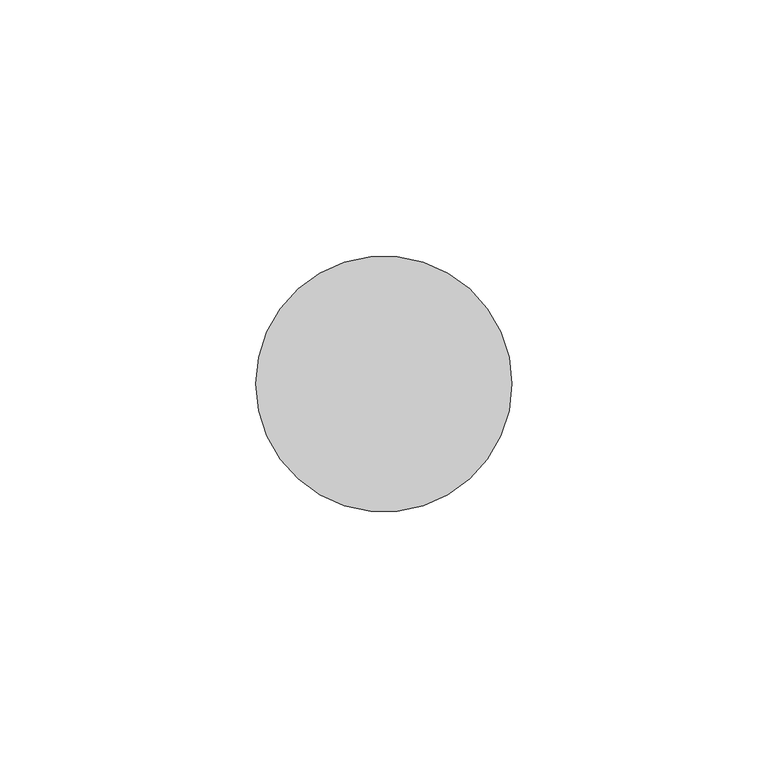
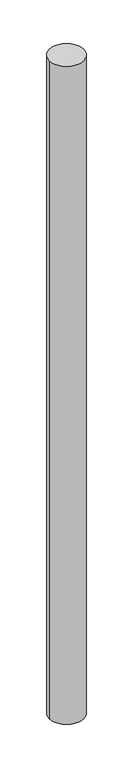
"""IFC4 building model written with IfcOpenShell, lengths in millimetres: member geometry, 圓形豎框 : 25mm 半徑."""

from ifc_helpers import new_model, si_unit, point, frame, origin, origin_2d, place, context, project, spatial, circle_curve, trimmed, segment, composite_curve, outline, extrude, source, transform, mapped, element, save


def member_c475f96c(model_context):
    return source(origin(), model_context, "Body", "SweptSolid", [
        extrude(outline(composite_curve([segment(trimmed(circle_curve(origin_2d(), 25.0), [point((25.0, 0.0))], [point((-25.0, 0.0))], False, "CARTESIAN"), True, "CONTINUOUS"), segment(trimmed(circle_curve(origin_2d(), 25.0), [point((-25.0, 0.0))], [point((25.0, 0.0))], False, "CARTESIAN"), True, "CONTINUOUS")], self_intersect=False)), frame((0.0, 0.0, -1016.472618), z_axis=(0.0, 0.0, 1.0), x_axis=(1.0, 0.0, 0.0)), (0.0, 0.0, 1.0), 1016.472618),
    ])


if __name__ == "__main__":
    model = new_model("IFC4")
    model_context = context("Model", 3, world=origin())
    ifc_project = project(units=[si_unit("LENGTHUNIT", "METRE", prefix="MILLI")], contexts=[model_context])
    site = spatial("IfcSite", under=ifc_project)
    building = spatial("IfcBuilding", under=site)
    placement = place(None, origin())
    member_shape = member_c475f96c(model_context)
    element("IfcMember", 1, ObjectType="圓形豎框 : 25mm 半徑", at=placement, inside=building, context=model_context, shape_type="MappedRepresentation", body=[
        mapped(member_shape, transform((0.0, 0.0, 0.0), x_axis=(1.0, 0.0, 0.0), y_axis=(0.0, 1.0, 0.0), z_axis=(0.0, 0.0, 1.0))),
    ])
    save(model, "model.ifc")
